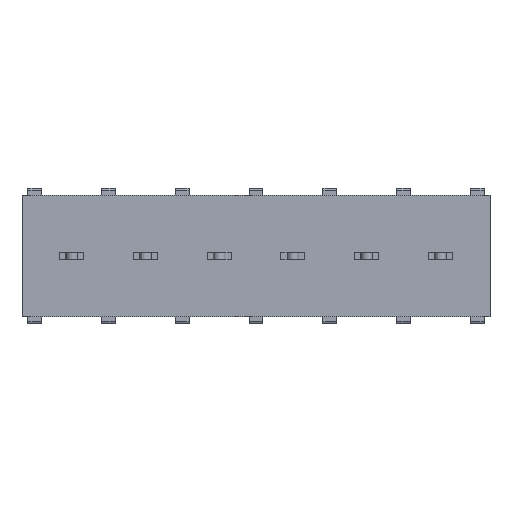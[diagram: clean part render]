
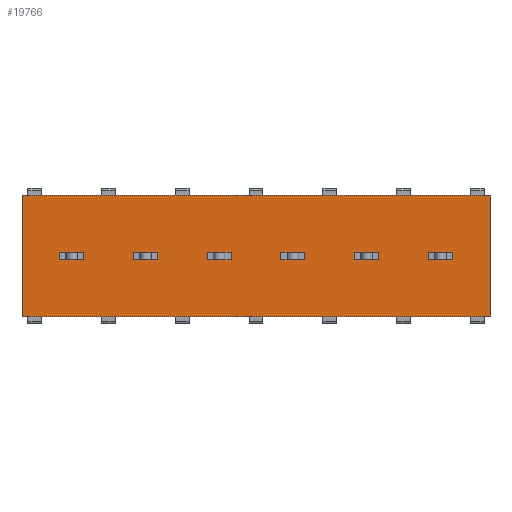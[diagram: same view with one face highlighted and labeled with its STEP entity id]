
A CAD part, front view. The second image highlights one B-rep face of the part: STEP entity #19766.
In plain terms, the highlighted planar face has unit normal (0, -1, 0).
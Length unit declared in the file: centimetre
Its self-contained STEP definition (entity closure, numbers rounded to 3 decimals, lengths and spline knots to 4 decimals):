
#1161=VERTEX_POINT('',#25051);
#1162=VERTEX_POINT('',#25052);
#1169=VERTEX_POINT('',#25067);
#1188=VERTEX_POINT('',#25123);
#1526=VERTEX_POINT('',#26634);
#1527=VERTEX_POINT('',#26636);
#1698=VERTEX_POINT('',#27200);
#1699=VERTEX_POINT('',#27201);
#1702=VERTEX_POINT('',#27209);
#1728=VERTEX_POINT('',#27279);
#1906=VERTEX_POINT('',#27877);
#1907=VERTEX_POINT('',#27878);
#1910=VERTEX_POINT('',#27886);
#1936=VERTEX_POINT('',#27956);
#2114=VERTEX_POINT('',#28554);
#2115=VERTEX_POINT('',#28555);
#2118=VERTEX_POINT('',#28563);
#2144=VERTEX_POINT('',#28633);
#2322=VERTEX_POINT('',#29231);
#2323=VERTEX_POINT('',#29232);
#2326=VERTEX_POINT('',#29240);
#2352=VERTEX_POINT('',#29310);
#2530=VERTEX_POINT('',#29908);
#2531=VERTEX_POINT('',#29909);
#2534=VERTEX_POINT('',#29917);
#2560=VERTEX_POINT('',#29987);
#2984=VERTEX_POINT('',#31761);
#2985=VERTEX_POINT('',#31763);
#3118=VECTOR('',#20852,1.);
#3124=VECTOR('',#20861,1.);
#3147=VECTOR('',#20905,1.);
#3157=VECTOR('',#20923,1.);
#3555=VECTOR('',#21457,1.);
#3730=VECTOR('',#21849,1.);
#3734=VECTOR('',#21854,1.);
#3762=VECTOR('',#21907,1.);
#3764=VECTOR('',#21910,1.);
#3954=VECTOR('',#22326,1.);
#3958=VECTOR('',#22331,1.);
#3986=VECTOR('',#22384,1.);
#3988=VECTOR('',#22387,1.);
#4178=VECTOR('',#22803,1.);
#4182=VECTOR('',#22808,1.);
#4210=VECTOR('',#22861,1.);
#4212=VECTOR('',#22864,1.);
#4402=VECTOR('',#23280,1.);
#4406=VECTOR('',#23285,1.);
#4434=VECTOR('',#23338,1.);
#4436=VECTOR('',#23341,1.);
#4626=VECTOR('',#23757,1.);
#4630=VECTOR('',#23762,1.);
#4658=VECTOR('',#23815,1.);
#4660=VECTOR('',#23818,1.);
#5176=VECTOR('',#24578,1.);
#5180=VECTOR('',#24584,1.);
#5181=VECTOR('',#24586,1.);
#5318=LINE('',#25050,#3118);
#5324=LINE('',#25066,#3124);
#5347=LINE('',#25122,#3147);
#5357=LINE('',#25144,#3157);
#5755=LINE('',#26635,#3555);
#5930=LINE('',#27199,#3730);
#5934=LINE('',#27208,#3734);
#5962=LINE('',#27278,#3762);
#5964=LINE('',#27282,#3764);
#6154=LINE('',#27876,#3954);
#6158=LINE('',#27885,#3958);
#6186=LINE('',#27955,#3986);
#6188=LINE('',#27959,#3988);
#6378=LINE('',#28553,#4178);
#6382=LINE('',#28562,#4182);
#6410=LINE('',#28632,#4210);
#6412=LINE('',#28636,#4212);
#6602=LINE('',#29230,#4402);
#6606=LINE('',#29239,#4406);
#6634=LINE('',#29309,#4434);
#6636=LINE('',#29313,#4436);
#6826=LINE('',#29907,#4626);
#6830=LINE('',#29916,#4630);
#6858=LINE('',#29986,#4658);
#6860=LINE('',#29990,#4660);
#7376=LINE('',#31762,#5176);
#7380=LINE('',#31769,#5180);
#7381=LINE('',#31771,#5181);
#7589=EDGE_CURVE('',#1161,#1162,#5318,.T.);
#7597=EDGE_CURVE('',#1162,#1169,#5324,.T.);
#7625=EDGE_CURVE('',#1169,#1188,#5347,.T.);
#7637=EDGE_CURVE('',#1188,#1161,#5357,.T.);
#8139=EDGE_CURVE('',#1527,#1526,#5755,.T.);
#8398=EDGE_CURVE('',#1698,#1699,#5930,.T.);
#8402=EDGE_CURVE('',#1702,#1698,#5934,.T.);
#8437=EDGE_CURVE('',#1728,#1702,#5962,.T.);
#8440=EDGE_CURVE('',#1699,#1728,#5964,.T.);
#8714=EDGE_CURVE('',#1906,#1907,#6154,.T.);
#8718=EDGE_CURVE('',#1910,#1906,#6158,.T.);
#8753=EDGE_CURVE('',#1936,#1910,#6186,.T.);
#8756=EDGE_CURVE('',#1907,#1936,#6188,.T.);
#9030=EDGE_CURVE('',#2114,#2115,#6378,.T.);
#9034=EDGE_CURVE('',#2118,#2114,#6382,.T.);
#9069=EDGE_CURVE('',#2144,#2118,#6410,.T.);
#9072=EDGE_CURVE('',#2115,#2144,#6412,.T.);
#9346=EDGE_CURVE('',#2322,#2323,#6602,.T.);
#9350=EDGE_CURVE('',#2326,#2322,#6606,.T.);
#9385=EDGE_CURVE('',#2352,#2326,#6634,.T.);
#9388=EDGE_CURVE('',#2323,#2352,#6636,.T.);
#9662=EDGE_CURVE('',#2530,#2531,#6826,.T.);
#9666=EDGE_CURVE('',#2534,#2530,#6830,.T.);
#9701=EDGE_CURVE('',#2560,#2534,#6858,.T.);
#9704=EDGE_CURVE('',#2531,#2560,#6860,.T.);
#10348=EDGE_CURVE('',#2985,#2984,#7376,.T.);
#10352=EDGE_CURVE('',#1526,#2985,#7380,.T.);
#10353=EDGE_CURVE('',#1527,#2984,#7381,.T.);
#16240=ORIENTED_EDGE('',*,*,#7625,.F.);
#16241=ORIENTED_EDGE('',*,*,#7597,.F.);
#16242=ORIENTED_EDGE('',*,*,#7589,.F.);
#16243=ORIENTED_EDGE('',*,*,#7637,.F.);
#16244=ORIENTED_EDGE('',*,*,#8402,.T.);
#16245=ORIENTED_EDGE('',*,*,#8398,.T.);
#16246=ORIENTED_EDGE('',*,*,#8440,.T.);
#16247=ORIENTED_EDGE('',*,*,#8437,.T.);
#16248=ORIENTED_EDGE('',*,*,#8718,.T.);
#16249=ORIENTED_EDGE('',*,*,#8714,.T.);
#16250=ORIENTED_EDGE('',*,*,#8756,.T.);
#16251=ORIENTED_EDGE('',*,*,#8753,.T.);
#16252=ORIENTED_EDGE('',*,*,#9034,.T.);
#16253=ORIENTED_EDGE('',*,*,#9030,.T.);
#16254=ORIENTED_EDGE('',*,*,#9072,.T.);
#16255=ORIENTED_EDGE('',*,*,#9069,.T.);
#16256=ORIENTED_EDGE('',*,*,#9350,.T.);
#16257=ORIENTED_EDGE('',*,*,#9346,.T.);
#16258=ORIENTED_EDGE('',*,*,#9388,.T.);
#16259=ORIENTED_EDGE('',*,*,#9385,.T.);
#16260=ORIENTED_EDGE('',*,*,#9666,.T.);
#16261=ORIENTED_EDGE('',*,*,#9662,.T.);
#16262=ORIENTED_EDGE('',*,*,#9704,.T.);
#16263=ORIENTED_EDGE('',*,*,#9701,.T.);
#16264=ORIENTED_EDGE('',*,*,#10348,.T.);
#16265=ORIENTED_EDGE('',*,*,#10353,.F.);
#16266=ORIENTED_EDGE('',*,*,#8139,.T.);
#16267=ORIENTED_EDGE('',*,*,#10352,.T.);
#17476=EDGE_LOOP('',(#16240,#16241,#16242,#16243));
#17477=EDGE_LOOP('',(#16244,#16245,#16246,#16247));
#17478=EDGE_LOOP('',(#16248,#16249,#16250,#16251));
#17479=EDGE_LOOP('',(#16252,#16253,#16254,#16255));
#17480=EDGE_LOOP('',(#16256,#16257,#16258,#16259));
#17481=EDGE_LOOP('',(#16260,#16261,#16262,#16263));
#17482=EDGE_LOOP('',(#16264,#16265,#16266,#16267));
#18662=FACE_BOUND('',#17476,.T.);
#18663=FACE_BOUND('',#17477,.T.);
#18664=FACE_BOUND('',#17478,.T.);
#18665=FACE_BOUND('',#17479,.T.);
#18666=FACE_BOUND('',#17480,.T.);
#18667=FACE_BOUND('',#17481,.T.);
#18668=FACE_BOUND('',#17482,.T.);
#19766=ADVANCED_FACE('',(#18662,#18663,#18664,#18665,#18666,#18667,#18668),
#20548,.T.);
#20548=PLANE('',#33092);
#20852=DIRECTION('',(-1.,0.,0.));
#20861=DIRECTION('',(0.,0.,-1.));
#20905=DIRECTION('',(1.,0.,0.));
#20923=DIRECTION('',(0.,0.,1.));
#21457=DIRECTION('',(0.,0.,1.));
#21849=DIRECTION('',(0.,0.,1.));
#21854=DIRECTION('',(-1.,0.,0.));
#21907=DIRECTION('',(0.,0.,-1.));
#21910=DIRECTION('',(1.,0.,0.));
#22326=DIRECTION('',(0.,0.,1.));
#22331=DIRECTION('',(-1.,0.,0.));
#22384=DIRECTION('',(0.,0.,-1.));
#22387=DIRECTION('',(1.,0.,0.));
#22803=DIRECTION('',(0.,0.,1.));
#22808=DIRECTION('',(-1.,0.,0.));
#22861=DIRECTION('',(0.,0.,-1.));
#22864=DIRECTION('',(1.,0.,0.));
#23280=DIRECTION('',(0.,0.,1.));
#23285=DIRECTION('',(-1.,0.,0.));
#23338=DIRECTION('',(0.,0.,-1.));
#23341=DIRECTION('',(1.,0.,0.));
#23757=DIRECTION('',(0.,0.,1.));
#23762=DIRECTION('',(-1.,0.,0.));
#23815=DIRECTION('',(0.,0.,-1.));
#23818=DIRECTION('',(1.,0.,0.));
#24578=DIRECTION('',(0.,0.,-1.));
#24584=DIRECTION('',(-1.,0.,0.));
#24585=DIRECTION('',(0.,-1.,0.));
#24586=DIRECTION('',(-1.,0.,0.));
#25050=CARTESIAN_POINT('',(-0.465,0.,0.04));
#25051=CARTESIAN_POINT('',(-0.185,0.,0.04));
#25052=CARTESIAN_POINT('',(-0.435,0.,0.04));
#25066=CARTESIAN_POINT('',(-0.435,0.,0.));
#25067=CARTESIAN_POINT('',(-0.435,0.,-0.04));
#25122=CARTESIAN_POINT('',(-0.465,0.,-0.04));
#25123=CARTESIAN_POINT('',(-0.185,0.,-0.04));
#25144=CARTESIAN_POINT('',(-0.185,0.,0.));
#26634=CARTESIAN_POINT('',(4.012,0.,0.625));
#26635=CARTESIAN_POINT('',(4.012,0.,-0.625));
#26636=CARTESIAN_POINT('',(4.012,0.,-0.625));
#27199=CARTESIAN_POINT('',(3.375,0.,0.));
#27200=CARTESIAN_POINT('',(3.375,0.,-0.04));
#27201=CARTESIAN_POINT('',(3.375,0.,0.04));
#27208=CARTESIAN_POINT('',(1.75,0.,-0.04));
#27209=CARTESIAN_POINT('',(3.625,0.,-0.04));
#27278=CARTESIAN_POINT('',(3.625,0.,0.));
#27279=CARTESIAN_POINT('',(3.625,0.,0.04));
#27282=CARTESIAN_POINT('',(1.75,0.,0.04));
#27876=CARTESIAN_POINT('',(2.613,0.,0.));
#27877=CARTESIAN_POINT('',(2.613,0.,-0.04));
#27878=CARTESIAN_POINT('',(2.613,0.,0.04));
#27885=CARTESIAN_POINT('',(1.369,0.,-0.04));
#27886=CARTESIAN_POINT('',(2.863,0.,-0.04));
#27955=CARTESIAN_POINT('',(2.863,0.,0.));
#27956=CARTESIAN_POINT('',(2.863,0.,0.04));
#27959=CARTESIAN_POINT('',(1.369,0.,0.04));
#28553=CARTESIAN_POINT('',(1.851,0.,0.));
#28554=CARTESIAN_POINT('',(1.851,0.,-0.04));
#28555=CARTESIAN_POINT('',(1.851,0.,0.04));
#28562=CARTESIAN_POINT('',(0.988,0.,-0.04));
#28563=CARTESIAN_POINT('',(2.101,0.,-0.04));
#28632=CARTESIAN_POINT('',(2.101,0.,0.));
#28633=CARTESIAN_POINT('',(2.101,0.,0.04));
#28636=CARTESIAN_POINT('',(0.988,0.,0.04));
#29230=CARTESIAN_POINT('',(1.089,0.,0.));
#29231=CARTESIAN_POINT('',(1.089,0.,-0.04));
#29232=CARTESIAN_POINT('',(1.089,0.,0.04));
#29239=CARTESIAN_POINT('',(0.607,0.,-0.04));
#29240=CARTESIAN_POINT('',(1.339,0.,-0.04));
#29309=CARTESIAN_POINT('',(1.339,0.,0.));
#29310=CARTESIAN_POINT('',(1.339,0.,0.04));
#29313=CARTESIAN_POINT('',(0.607,0.,0.04));
#29907=CARTESIAN_POINT('',(0.327,0.,0.));
#29908=CARTESIAN_POINT('',(0.327,0.,-0.04));
#29909=CARTESIAN_POINT('',(0.327,0.,0.04));
#29916=CARTESIAN_POINT('',(0.226,0.,-0.04));
#29917=CARTESIAN_POINT('',(0.577,0.,-0.04));
#29986=CARTESIAN_POINT('',(0.577,0.,0.));
#29987=CARTESIAN_POINT('',(0.577,0.,0.04));
#29990=CARTESIAN_POINT('',(0.226,0.,0.04));
#31761=CARTESIAN_POINT('',(-0.822,0.,-0.625));
#31762=CARTESIAN_POINT('',(-0.822,0.,0.625));
#31763=CARTESIAN_POINT('',(-0.822,0.,0.625));
#31769=CARTESIAN_POINT('',(-0.762,0.,0.625));
#31770=CARTESIAN_POINT('',(-0.762,0.,0.));
#31771=CARTESIAN_POINT('',(-0.762,0.,-0.625));
#33092=AXIS2_PLACEMENT_3D('',#31770,#24585,$);
